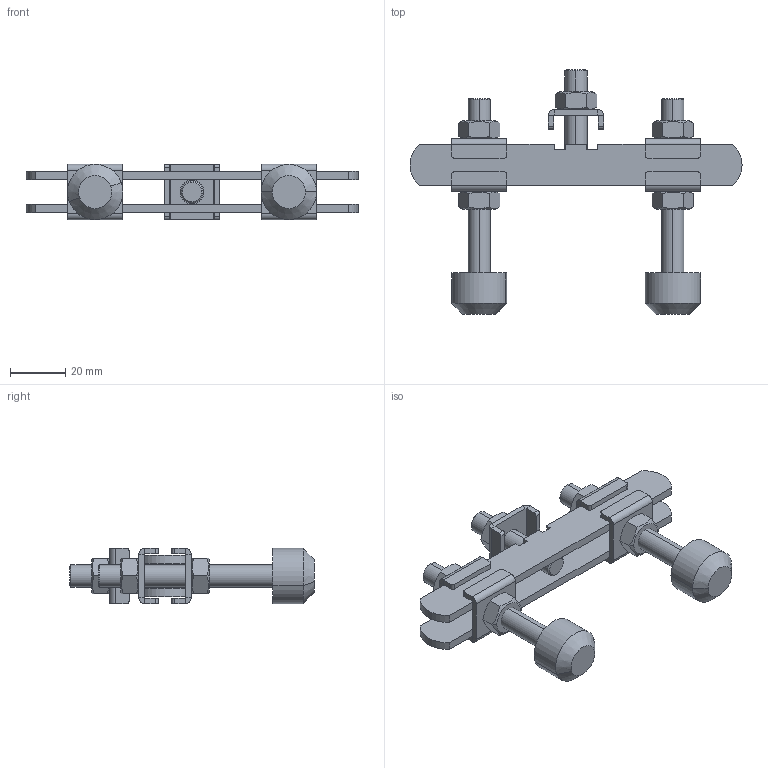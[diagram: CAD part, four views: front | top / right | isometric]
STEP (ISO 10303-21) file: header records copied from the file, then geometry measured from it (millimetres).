
FILE_DESCRIPTION (( 'STEP AP203' ), '1' );
FILE_NAME ('PBD-M8.STEP', '2016-07-25T18:14:12', ( 'Ricardo' ), ( '' ), 'SwSTEP 2.0', 'SolidWorks 2015', '' );
FILE_SCHEMA (( 'CONFIG_CONTROL_DESIGN' ));
Length unit declared in the file: millimetre
Products named in the file (7): 20.20014; 14.10001; 11.50002; 20.10001; PBD-M8; 10.20001; 20.20010
Assembly tree (17 placements, depth 2):
  PBD-M8
    20.20014  x2
    14.10001  x5
    11.50002  x5
    20.10001  x2
    10.20001
    20.20010  x2
Bounding box: 120 x 88.5 x 20 mm (x, y, z)
Volume: 35956.3 mm3; surface area: 26126.6 mm2
Topology: 17 solids, 17 shells, 304 faces, 690 edges, 418 vertices
Faces by surface type: plane 164, cylinder 80, cone 60
Entity records: 3566 total; most frequent: CARTESIAN_POINT 539, DIRECTION 461, ORIENTED_EDGE 382, EDGE_CURVE 191, AXIS2_PLACEMENT_3D 175, VERTEX_POINT 117, LINE 111, VECTOR 111
